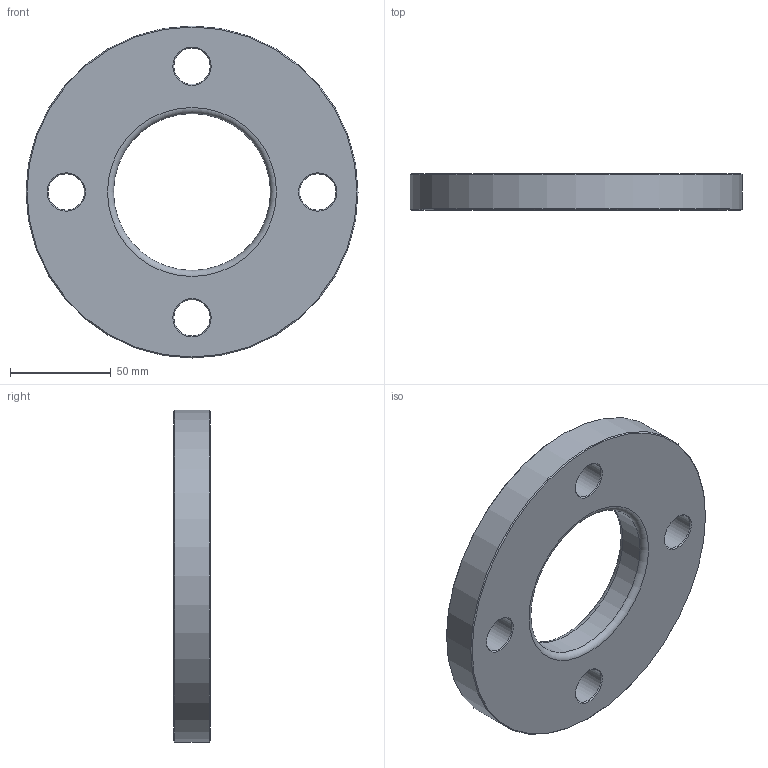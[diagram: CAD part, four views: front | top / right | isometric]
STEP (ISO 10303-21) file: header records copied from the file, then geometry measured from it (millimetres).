
FILE_DESCRIPTION(/* description */ ('Unknown'),/* implementation_level */ '2;1');
FILE_NAME(/* name */ 'FR063C',/* time_stamp */ '2022-07-05T16:07:15+02:00',/* author */ ('Unknown'),/* organization */ ('Unknown'),/* preprocessor_version */ 'ST-DEVELOPER v18.102',/* originating_system */ 'Solid Edge',/* authorisation */ 'Unknown');
FILE_SCHEMA (('AUTOMOTIVE_DESIGN {1 0 10303 214 3 1 1}'));
Length unit declared in the file: millimetre
Products named in the file (1): FR063C
Bounding box: 165 x 18 x 165 mm (x, y, z)
Volume: 279402.3 mm3; surface area: 47928 mm2
Topology: 1 solids, 1 shells, 20 faces, 54 edges, 36 vertices
Faces by surface type: cone 10, cylinder 6, plane 2, torus 2
Full cylindrical faces by diameter (mm): 18 x4, 78 x1, 165 x1
Entity records: 494 total; most frequent: DIRECTION 90, CARTESIAN_POINT 69, ORIENTED_EDGE 48, EDGE_LOOP 48, FACE_BOUND 48, AXIS2_PLACEMENT_3D 45, EDGE_CURVE 24, VERTEX_POINT 24
